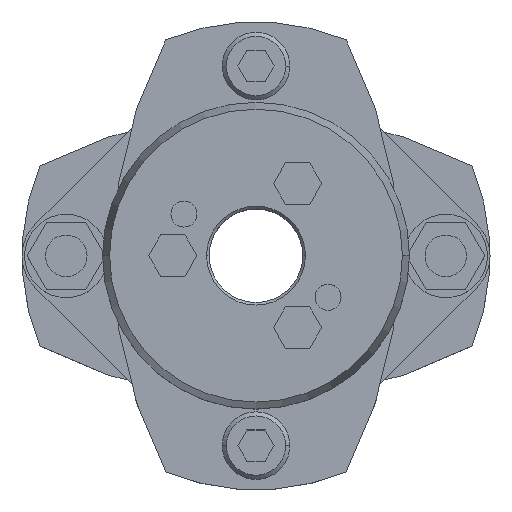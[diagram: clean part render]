
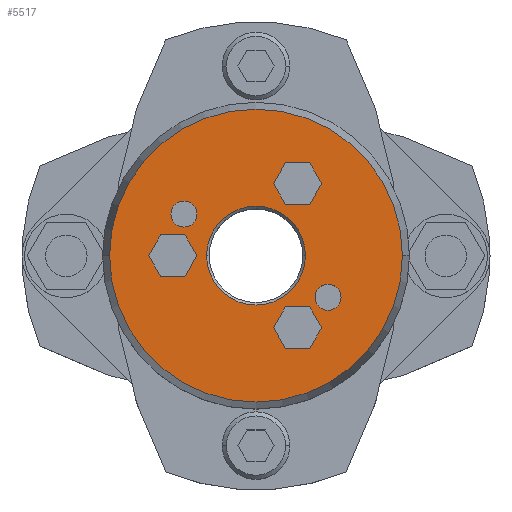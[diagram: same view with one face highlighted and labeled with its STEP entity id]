
A CAD part, top view. The second image highlights one B-rep face of the part: STEP entity #5517.
In plain terms, the highlighted planar face has unit normal (0, 0, 1).
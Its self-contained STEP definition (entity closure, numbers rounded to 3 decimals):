
#857=CARTESIAN_POINT('',(-9.5,0.,39.25));
#858=VERTEX_POINT('',#857);
#874=CARTESIAN_POINT('',(9.5,0.,39.25));
#875=VERTEX_POINT('',#874);
#882=CARTESIAN_POINT('',(0.,0.,39.25));
#883=DIRECTION('',(0.0,0.0,1.0));
#884=DIRECTION('',(-1.0,0.0,0.0));
#885=AXIS2_PLACEMENT_3D('',#882,#883,#884);
#886=CIRCLE('',#885,9.5);
#887=EDGE_CURVE('',#875,#858,#886,.T.);
#1045=CARTESIAN_POINT('',(28.16,0.,39.25));
#1046=VERTEX_POINT('',#1045);
#1053=CARTESIAN_POINT('',(-28.16,0.,39.25));
#1054=VERTEX_POINT('',#1053);
#1055=CARTESIAN_POINT('',(0.,0.,39.25));
#1056=DIRECTION('',(0.0,0.0,-1.0));
#1057=DIRECTION('',(1.0,0.0,0.0));
#1058=AXIS2_PLACEMENT_3D('',#1055,#1056,#1057);
#1059=CIRCLE('',#1058,28.16);
#1060=EDGE_CURVE('',#1046,#1054,#1059,.T.);
#1303=CARTESIAN_POINT('',(-16.356,8.,39.25));
#1304=VERTEX_POINT('',#1303);
#1320=CARTESIAN_POINT('',(-11.356,8.,39.25));
#1321=VERTEX_POINT('',#1320);
#1328=CARTESIAN_POINT('',(-13.856,8.,39.25));
#1329=DIRECTION('',(0.0,0.0,-1.0));
#1330=DIRECTION('',(-1.0,0.0,0.0));
#1331=AXIS2_PLACEMENT_3D('',#1328,#1329,#1330);
#1332=CIRCLE('',#1331,2.5);
#1333=EDGE_CURVE('',#1304,#1321,#1332,.T.);
#1345=CARTESIAN_POINT('',(11.356,-8.,39.25));
#1346=VERTEX_POINT('',#1345);
#1362=CARTESIAN_POINT('',(16.356,-8.,39.25));
#1363=VERTEX_POINT('',#1362);
#1370=CARTESIAN_POINT('',(13.856,-8.,39.25));
#1371=DIRECTION('',(0.0,0.0,-1.0));
#1372=DIRECTION('',(-1.0,0.0,0.0));
#1373=AXIS2_PLACEMENT_3D('',#1370,#1371,#1372);
#1374=CIRCLE('',#1373,2.5);
#1375=EDGE_CURVE('',#1346,#1363,#1374,.T.);
#4033=CARTESIAN_POINT('',(3.381,13.856,39.25));
#4034=VERTEX_POINT('',#4033);
#4041=CARTESIAN_POINT('',(5.691,9.856,39.25));
#4042=VERTEX_POINT('',#4041);
#4043=CARTESIAN_POINT('',(5.691,9.856,39.25));
#4044=DIRECTION('',(-0.5,0.866,0.0));
#4045=VECTOR('',#4044,4.619);
#4046=LINE('',#4043,#4045);
#4047=EDGE_CURVE('',#4042,#4034,#4046,.T.);
#4071=CARTESIAN_POINT('',(5.691,17.856,39.25));
#4072=VERTEX_POINT('',#4071);
#4079=CARTESIAN_POINT('',(3.381,13.856,39.25));
#4080=DIRECTION('',(0.5,0.866,0.0));
#4081=VECTOR('',#4080,4.619);
#4082=LINE('',#4079,#4081);
#4083=EDGE_CURVE('',#4034,#4072,#4082,.T.);
#4102=CARTESIAN_POINT('',(10.309,17.856,39.25));
#4103=VERTEX_POINT('',#4102);
#4110=CARTESIAN_POINT('',(5.691,17.856,39.25));
#4111=DIRECTION('',(1.0,0.0,0.0));
#4112=VECTOR('',#4111,4.619);
#4113=LINE('',#4110,#4112);
#4114=EDGE_CURVE('',#4072,#4103,#4113,.T.);
#4133=CARTESIAN_POINT('',(12.619,13.856,39.25));
#4134=VERTEX_POINT('',#4133);
#4141=CARTESIAN_POINT('',(10.309,17.856,39.25));
#4142=DIRECTION('',(0.5,-0.866,0.0));
#4143=VECTOR('',#4142,4.619);
#4144=LINE('',#4141,#4143);
#4145=EDGE_CURVE('',#4103,#4134,#4144,.T.);
#4164=CARTESIAN_POINT('',(10.309,9.856,39.25));
#4165=VERTEX_POINT('',#4164);
#4172=CARTESIAN_POINT('',(12.619,13.856,39.25));
#4173=DIRECTION('',(-0.5,-0.866,0.0));
#4174=VECTOR('',#4173,4.619);
#4175=LINE('',#4172,#4174);
#4176=EDGE_CURVE('',#4134,#4165,#4175,.T.);
#4194=CARTESIAN_POINT('',(10.309,9.856,39.25));
#4195=DIRECTION('',(-1.0,0.0,0.0));
#4196=VECTOR('',#4195,4.619);
#4197=LINE('',#4194,#4196);
#4198=EDGE_CURVE('',#4165,#4042,#4197,.T.);
#4233=CARTESIAN_POINT('',(-20.619,0.,39.25));
#4234=VERTEX_POINT('',#4233);
#4241=CARTESIAN_POINT('',(-18.309,-4.,39.25));
#4242=VERTEX_POINT('',#4241);
#4243=CARTESIAN_POINT('',(-18.309,-4.,39.25));
#4244=DIRECTION('',(-0.5,0.866,0.0));
#4245=VECTOR('',#4244,4.619);
#4246=LINE('',#4243,#4245);
#4247=EDGE_CURVE('',#4242,#4234,#4246,.T.);
#4271=CARTESIAN_POINT('',(-18.309,4.,39.25));
#4272=VERTEX_POINT('',#4271);
#4279=CARTESIAN_POINT('',(-20.619,0.,39.25));
#4280=DIRECTION('',(0.5,0.866,0.0));
#4281=VECTOR('',#4280,4.619);
#4282=LINE('',#4279,#4281);
#4283=EDGE_CURVE('',#4234,#4272,#4282,.T.);
#4302=CARTESIAN_POINT('',(-13.691,4.,39.25));
#4303=VERTEX_POINT('',#4302);
#4310=CARTESIAN_POINT('',(-18.309,4.,39.25));
#4311=DIRECTION('',(1.0,0.0,0.0));
#4312=VECTOR('',#4311,4.619);
#4313=LINE('',#4310,#4312);
#4314=EDGE_CURVE('',#4272,#4303,#4313,.T.);
#4333=CARTESIAN_POINT('',(-11.381,0.,39.25));
#4334=VERTEX_POINT('',#4333);
#4341=CARTESIAN_POINT('',(-13.691,4.,39.25));
#4342=DIRECTION('',(0.5,-0.866,0.0));
#4343=VECTOR('',#4342,4.619);
#4344=LINE('',#4341,#4343);
#4345=EDGE_CURVE('',#4303,#4334,#4344,.T.);
#4364=CARTESIAN_POINT('',(-13.691,-4.,39.25));
#4365=VERTEX_POINT('',#4364);
#4372=CARTESIAN_POINT('',(-11.381,0.,39.25));
#4373=DIRECTION('',(-0.5,-0.866,0.0));
#4374=VECTOR('',#4373,4.619);
#4375=LINE('',#4372,#4374);
#4376=EDGE_CURVE('',#4334,#4365,#4375,.T.);
#4394=CARTESIAN_POINT('',(-13.691,-4.,39.25));
#4395=DIRECTION('',(-1.0,0.0,0.0));
#4396=VECTOR('',#4395,4.619);
#4397=LINE('',#4394,#4396);
#4398=EDGE_CURVE('',#4365,#4242,#4397,.T.);
#4433=CARTESIAN_POINT('',(3.381,-13.856,39.25));
#4434=VERTEX_POINT('',#4433);
#4441=CARTESIAN_POINT('',(5.691,-17.856,39.25));
#4442=VERTEX_POINT('',#4441);
#4443=CARTESIAN_POINT('',(5.691,-17.856,39.25));
#4444=DIRECTION('',(-0.5,0.866,0.0));
#4445=VECTOR('',#4444,4.619);
#4446=LINE('',#4443,#4445);
#4447=EDGE_CURVE('',#4442,#4434,#4446,.T.);
#4471=CARTESIAN_POINT('',(5.691,-9.856,39.25));
#4472=VERTEX_POINT('',#4471);
#4479=CARTESIAN_POINT('',(3.381,-13.856,39.25));
#4480=DIRECTION('',(0.5,0.866,0.0));
#4481=VECTOR('',#4480,4.619);
#4482=LINE('',#4479,#4481);
#4483=EDGE_CURVE('',#4434,#4472,#4482,.T.);
#4502=CARTESIAN_POINT('',(10.309,-9.856,39.25));
#4503=VERTEX_POINT('',#4502);
#4510=CARTESIAN_POINT('',(5.691,-9.856,39.25));
#4511=DIRECTION('',(1.0,0.0,0.0));
#4512=VECTOR('',#4511,4.619);
#4513=LINE('',#4510,#4512);
#4514=EDGE_CURVE('',#4472,#4503,#4513,.T.);
#4533=CARTESIAN_POINT('',(12.619,-13.856,39.25));
#4534=VERTEX_POINT('',#4533);
#4541=CARTESIAN_POINT('',(10.309,-9.856,39.25));
#4542=DIRECTION('',(0.5,-0.866,0.0));
#4543=VECTOR('',#4542,4.619);
#4544=LINE('',#4541,#4543);
#4545=EDGE_CURVE('',#4503,#4534,#4544,.T.);
#4564=CARTESIAN_POINT('',(10.309,-17.856,39.25));
#4565=VERTEX_POINT('',#4564);
#4572=CARTESIAN_POINT('',(12.619,-13.856,39.25));
#4573=DIRECTION('',(-0.5,-0.866,0.0));
#4574=VECTOR('',#4573,4.619);
#4575=LINE('',#4572,#4574);
#4576=EDGE_CURVE('',#4534,#4565,#4575,.T.);
#4594=CARTESIAN_POINT('',(10.309,-17.856,39.25));
#4595=DIRECTION('',(-1.0,0.0,0.0));
#4596=VECTOR('',#4595,4.619);
#4597=LINE('',#4594,#4596);
#4598=EDGE_CURVE('',#4565,#4442,#4597,.T.);
#4624=CARTESIAN_POINT('',(13.856,-8.,39.25));
#4625=DIRECTION('',(0.0,0.0,-1.0));
#4626=DIRECTION('',(-1.0,0.0,0.0));
#4627=AXIS2_PLACEMENT_3D('',#4624,#4625,#4626);
#4628=CIRCLE('',#4627,2.5);
#4629=EDGE_CURVE('',#1363,#1346,#4628,.T.);
#4658=CARTESIAN_POINT('',(-13.856,8.,39.25));
#4659=DIRECTION('',(0.0,0.0,-1.0));
#4660=DIRECTION('',(-1.0,0.0,0.0));
#4661=AXIS2_PLACEMENT_3D('',#4658,#4659,#4660);
#4662=CIRCLE('',#4661,2.5);
#4663=EDGE_CURVE('',#1321,#1304,#4662,.T.);
#5456=CARTESIAN_POINT('',(0.,0.,39.25));
#5457=DIRECTION('',(0.0,0.0,-1.0));
#5458=DIRECTION('',(1.0,0.0,0.0));
#5459=AXIS2_PLACEMENT_3D('',#5456,#5457,#5458);
#5460=CIRCLE('',#5459,28.16);
#5461=EDGE_CURVE('',#1054,#1046,#5460,.T.);
#5466=CARTESIAN_POINT('',(-2.682,0.,39.25));
#5467=DIRECTION('',(0.0,0.0,1.0));
#5468=DIRECTION('',(-1.0,0.0,0.0));
#5469=AXIS2_PLACEMENT_3D('',#5466,#5467,#5468);
#5470=PLANE('',#5469);
#5471=ORIENTED_EDGE('',*,*,#5461,.F.);
#5472=ORIENTED_EDGE('',*,*,#1060,.F.);
#5473=EDGE_LOOP('',(#5471,#5472));
#5474=FACE_OUTER_BOUND('',#5473,.T.);
#5475=ORIENTED_EDGE('',*,*,#4047,.T.);
#5476=ORIENTED_EDGE('',*,*,#4083,.T.);
#5477=ORIENTED_EDGE('',*,*,#4114,.T.);
#5478=ORIENTED_EDGE('',*,*,#4145,.T.);
#5479=ORIENTED_EDGE('',*,*,#4176,.T.);
#5480=ORIENTED_EDGE('',*,*,#4198,.T.);
#5481=EDGE_LOOP('',(#5475,#5476,#5477,#5478,#5479,#5480));
#5482=FACE_BOUND('',#5481,.T.);
#5483=ORIENTED_EDGE('',*,*,#4247,.T.);
#5484=ORIENTED_EDGE('',*,*,#4283,.T.);
#5485=ORIENTED_EDGE('',*,*,#4314,.T.);
#5486=ORIENTED_EDGE('',*,*,#4345,.T.);
#5487=ORIENTED_EDGE('',*,*,#4376,.T.);
#5488=ORIENTED_EDGE('',*,*,#4398,.T.);
#5489=EDGE_LOOP('',(#5483,#5484,#5485,#5486,#5487,#5488));
#5490=FACE_BOUND('',#5489,.T.);
#5491=ORIENTED_EDGE('',*,*,#4447,.T.);
#5492=ORIENTED_EDGE('',*,*,#4483,.T.);
#5493=ORIENTED_EDGE('',*,*,#4514,.T.);
#5494=ORIENTED_EDGE('',*,*,#4545,.T.);
#5495=ORIENTED_EDGE('',*,*,#4576,.T.);
#5496=ORIENTED_EDGE('',*,*,#4598,.T.);
#5497=EDGE_LOOP('',(#5491,#5492,#5493,#5494,#5495,#5496));
#5498=FACE_BOUND('',#5497,.T.);
#5499=ORIENTED_EDGE('',*,*,#1375,.T.);
#5500=ORIENTED_EDGE('',*,*,#4629,.T.);
#5501=EDGE_LOOP('',(#5499,#5500));
#5502=FACE_BOUND('',#5501,.T.);
#5503=ORIENTED_EDGE('',*,*,#1333,.T.);
#5504=ORIENTED_EDGE('',*,*,#4663,.T.);
#5505=EDGE_LOOP('',(#5503,#5504));
#5506=FACE_BOUND('',#5505,.T.);
#5507=ORIENTED_EDGE('',*,*,#887,.F.);
#5508=CARTESIAN_POINT('',(0.,0.,39.25));
#5509=DIRECTION('',(0.0,0.0,1.0));
#5510=DIRECTION('',(-1.0,0.0,0.0));
#5511=AXIS2_PLACEMENT_3D('',#5508,#5509,#5510);
#5512=CIRCLE('',#5511,9.5);
#5513=EDGE_CURVE('',#858,#875,#5512,.T.);
#5514=ORIENTED_EDGE('',*,*,#5513,.F.);
#5515=EDGE_LOOP('',(#5507,#5514));
#5516=FACE_BOUND('',#5515,.T.);
#5517=ADVANCED_FACE('',(#5474,#5482,#5490,#5498,#5502,#5506,#5516),#5470,.T.);
